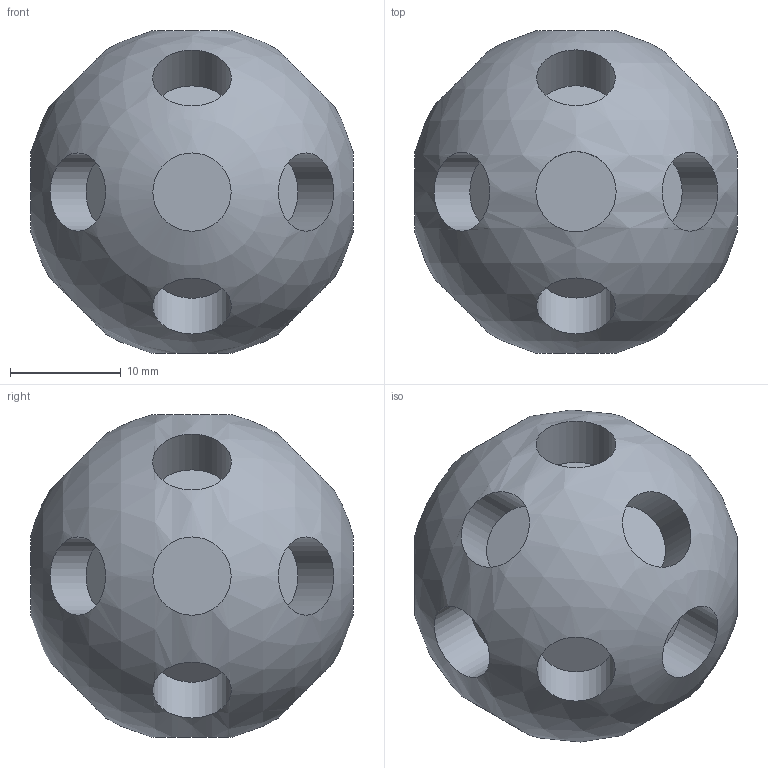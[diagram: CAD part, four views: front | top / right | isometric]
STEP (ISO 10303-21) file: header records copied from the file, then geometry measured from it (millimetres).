
FILE_DESCRIPTION(/* description */ ('STEP AP242','CAx-IF Rec.Pracs.---Representation and Presentation of Product Manufacturing Information (PMI)---4.0---2014-10-13','CAx-IF Rec.Pracs.---3D Tessellated Geometry---0.4---2014-09-14','2;1'),/* implementation_level */ '2;1');
FILE_NAME(/* name */ '67648130442a502c86ab31e2',/* time_stamp */ '2024-12-19T20:25:20Z',/* author */ (''),/* organization */ (''),/* preprocessor_version */ 'ST-DEVELOPER v20',/* originating_system */ 'ONSHAPE BY PTC INC, 1.191',/* authorisation */ ' ');
FILE_SCHEMA (('AP242_MANAGED_MODEL_BASED_3D_ENGINEERING_MIM_LF { 1 0 10303 442 1 1 4 }'));
Length unit declared in the file: metre
Products named in the file (1): Part 1
Bounding box: 29.15 x 29.15 x 29.1 mm (x, y, z)
Volume: 10706.2 mm3; surface area: 4657.5 mm2
Topology: 1 solids, 1 shells, 37 faces, 72 edges, 50 vertices
Faces by surface type: cylinder 18, plane 18, sphere 1
Full cylindrical faces by diameter (mm): 7.075 x8, 7.12 x8, 7.25 x1, 7.35 x1
Entity records: 756 total; most frequent: DIRECTION 148, CARTESIAN_POINT 110, AXIS2_PLACEMENT_3D 74, ORIENTED_EDGE 72, EDGE_LOOP 72, FACE_BOUND 72, ADVANCED_FACE 37, EDGE_CURVE 36
